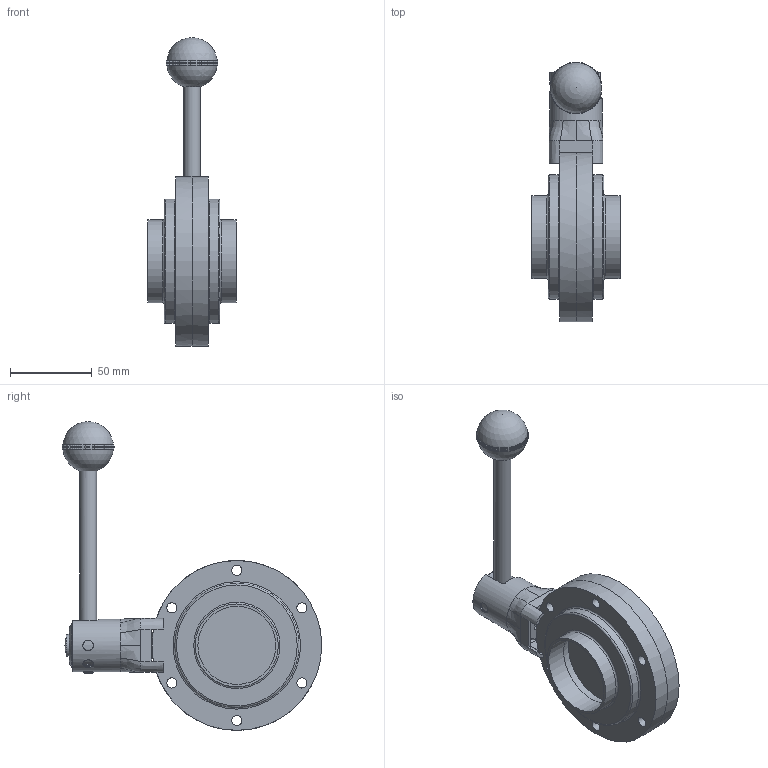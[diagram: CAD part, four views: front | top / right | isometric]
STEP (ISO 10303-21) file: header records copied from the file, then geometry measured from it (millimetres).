
FILE_DESCRIPTION(/* description */ ('VVF VALV.FARF.DN50.8 S/S EPDM 316 LEVA INOX 3POS.'),/* implementation_level */ '2;1');
FILE_NAME(/* name */ 'C:\_DED_PWS\ZIGN-L\DB\B\EBA\BEBAAL200BEBV-00^SAGOMA.step',/* time_stamp */ '2022-08-12T09:28:04+02:00',/* author */ (''),/* organization */ (''),/* preprocessor_version */ 'ST-DEVELOPER v18.1',/* originating_system */ 'Autodesk Inventor 2022',/* authorisation */ '');
FILE_SCHEMA (('CONFIG_CONTROL_DESIGN'));
Length unit declared in the file: millimetre
Products named in the file (3): BEBAAL200BEBV; TNU430065AAA; TWDBB0507
Assembly tree (3 placements, depth 2):
  BEBAAL200BEBV
    TNU430065AAA
    TWDBB0507  x2
Bounding box: 54 x 158.92 x 189.01 mm (x, y, z)
Volume: 261951.9 mm3; surface area: 82032.1 mm2
Topology: 4 solids, 5 shells, 551 faces, 1358 edges, 895 vertices
Faces by surface type: plane 355, torus 85, cylinder 58, bspline 38, cone 11, sphere 4
Full cylindrical faces by diameter (mm): 6 x2, 6.2 x12, 6.5 x3, 9 x3, 9.3 x1, 10 x3, 10.4 x1, 10.5 x1, 11 x1, 11.1 x1, 11.4 x2, 13.4 x1, 15 x1, 15.2 x1, 27.8 x1, 28.4 x1, 32.2 x1, 47.8 x2, 50.8 x2, 76 x2, 104 x2
Entity records: 26647 total; most frequent: CARTESIAN_POINT 13665, ORIENTED_EDGE 2602, DIRECTION 2594, EDGE_CURVE 1301, AXIS2_PLACEMENT_3D 1080, VERTEX_POINT 860, EDGE_LOOP 633, CIRCLE 584
